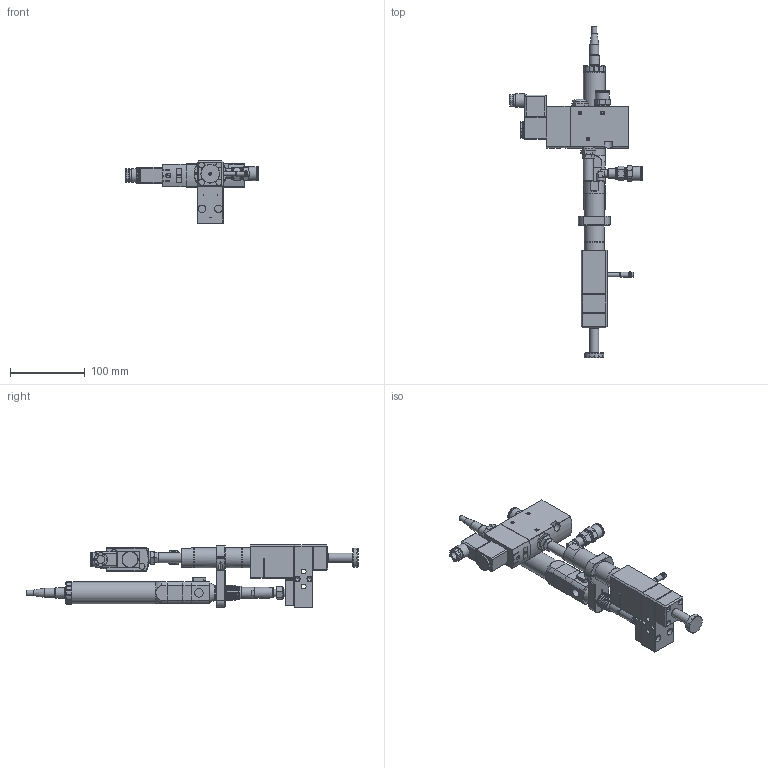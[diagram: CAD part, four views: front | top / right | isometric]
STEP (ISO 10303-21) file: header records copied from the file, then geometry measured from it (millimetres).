
FILE_DESCRIPTION (( 'STEP AP214' ), '1' );
FILE_NAME ('DAVR PCP150.STEP', '2023-07-17T07:27:01', ( '' ), ( '' ), 'SwSTEP 2.0', 'SolidWorks 2022', '' );
FILE_SCHEMA (( 'AUTOMOTIVE_DESIGN' ));
Length unit declared in the file: millimetre
Products named in the file (1): DAVR PCP150
Bounding box: 177.35 x 443.18 x 84 mm (x, y, z)
Volume: 674932.7 mm3; surface area: 124117 mm2
Topology: 2 solids, 2 shells, 1319 faces, 3371 edges, 2131 vertices
Faces by surface type: plane 768, cylinder 327, cone 187, bspline 24, torus 13
Full cylindrical faces by diameter (mm): 1.3 x12, 2.5 x2, 4.3 x1, 5 x3, 5.5 x1, 6 x1, 6.03 x6, 6.5 x2, 6.55 x2, 7 x1, 8 x5, 9 x1, 9.5 x2, 10 x3, 10.5 x2, 11.445 x1, 11.8 x1, 12 x2, 12.15 x2, 12.9 x1, 13 x1, 13.5 x2, 13.6 x1, 14 x2, 14.5 x2, 15.2 x1, 16 x1, 16.7 x2, 18 x1, 18.5 x2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
Entity records: 40478 total; most frequent: CARTESIAN_POINT 10262, ORIENTED_EDGE 6234, DIRECTION 5983, EDGE_CURVE 3117, AXIS2_PLACEMENT_3D 2127, VERTEX_POINT 2043, LINE 1729, VECTOR 1729
